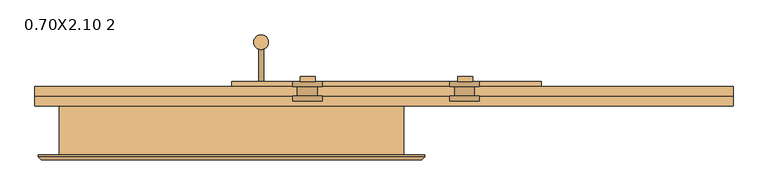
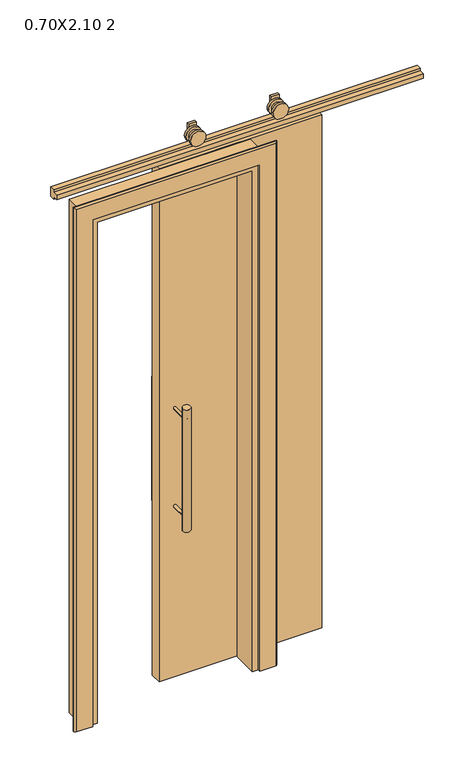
"""IFC4 building model written with IfcOpenShell, lengths in millimetres: door geometry, Porta de correr com revestimento - 1 Painel com trilho de aço inoxidável : 0.70X2.10 2."""

from ifc_helpers import new_model, si_unit, point, frame, frame_2d, origin, origin_with_axes, place, context, project, spatial, polyline, circle_curve, trimmed, segment, composite_curve, outline, extrude, faceted_brep, source, transform, mapped, element, save


def door_0_70x2_10_2_033ef500(model_context):
    return source(origin(), model_context, "Body", "SolidModel", [
        extrude(outline(composite_curve([segment(trimmed(circle_curve(frame_2d((60.0, -25.0)), 15.0), [point((45.0, -25.0))], [point((75.0, -25.0))], False, "CARTESIAN"), True, "CONTINUOUS"), segment(trimmed(circle_curve(frame_2d((60.0, -25.0)), 15.0), [point((75.0, -25.0))], [point((45.0, -25.0))], False, "CARTESIAN"), True, "CONTINUOUS")], self_intersect=False)), frame((0.0, 0.0, 650.0), z_axis=(0.0, 0.0, 1.0), x_axis=(1.0, 0.0, 0.0)), (0.0, 0.0, 1.0), 500.0),
        extrude(outline(composite_curve([segment(trimmed(circle_curve(frame_2d((1100.0, 60.0)), 5.0), [point((1100.0, 55.0))], [point((1100.0, 65.0))], False, "CARTESIAN"), True, "CONTINUOUS"), segment(trimmed(circle_curve(frame_2d((1100.0, 60.0)), 5.0), [point((1100.0, 65.0))], [point((1100.0, 55.0))], False, "CARTESIAN"), True, "CONTINUOUS")], self_intersect=False)), frame((0.0, -25.0, 0.0), z_axis=(0.0, 1.0, 0.0), x_axis=(0.0, 0.0, 1.0)), (0.0, 0.0, 1.0), 80.0),
        extrude(outline(composite_curve([segment(trimmed(circle_curve(frame_2d((700.0, 60.0)), 5.0), [point((700.0, 55.0))], [point((700.0, 65.0))], False, "CARTESIAN"), True, "CONTINUOUS"), segment(trimmed(circle_curve(frame_2d((700.0, 60.0)), 5.0), [point((700.0, 65.0))], [point((700.0, 55.0))], False, "CARTESIAN"), True, "CONTINUOUS")], self_intersect=False)), frame((0.0, -25.0, 0.0), z_axis=(0.0, 1.0, 0.0), x_axis=(0.0, 0.0, 1.0)), (0.0, 0.0, 1.0), 80.0),
        extrude(outline(composite_curve([segment(trimmed(circle_curve(frame_2d((1100.0, 60.0)), 5.0), [point((1100.0, 55.0))], [point((1100.0, 65.0))], False, "CARTESIAN"), True, "CONTINUOUS"), segment(trimmed(circle_curve(frame_2d((1100.0, 60.0)), 5.0), [point((1100.0, 65.0))], [point((1100.0, 55.0))], False, "CARTESIAN"), True, "CONTINUOUS")], self_intersect=False)), frame((0.0, 100.0, 0.0), z_axis=(0.0, 1.0, 0.0), x_axis=(0.0, 0.0, 1.0)), (0.0, 0.0, 1.0), 80.0),
        extrude(outline(composite_curve([segment(trimmed(circle_curve(frame_2d((700.0, 60.0)), 5.0), [point((700.0, 55.0))], [point((700.0, 65.0))], False, "CARTESIAN"), True, "CONTINUOUS"), segment(trimmed(circle_curve(frame_2d((700.0, 60.0)), 5.0), [point((700.0, 65.0))], [point((700.0, 55.0))], False, "CARTESIAN"), True, "CONTINUOUS")], self_intersect=False)), frame((0.0, 100.0, 0.0), z_axis=(0.0, 1.0, 0.0), x_axis=(0.0, 0.0, 1.0)), (0.0, 0.0, 1.0), 80.0),
        extrude(outline(composite_curve([segment(trimmed(circle_curve(frame_2d((60.0, 180.0)), 15.0), [point((45.0, 180.0))], [point((75.0, 180.0))], False, "CARTESIAN"), True, "CONTINUOUS"), segment(trimmed(circle_curve(frame_2d((60.0, 180.0)), 15.0), [point((75.0, 180.0))], [point((45.0, 180.0))], False, "CARTESIAN"), True, "CONTINUOUS")], self_intersect=False)), frame((0.0, 0.0, 650.0), z_axis=(0.0, 0.0, 1.0), x_axis=(1.0, 0.0, 0.0)), (0.0, 0.0, 1.0), 500.0),
        extrude(outline(composite_curve([segment(trimmed(circle_curve(frame_2d((2165.0, 473.9705806)), 30.0), [point((2165.0, 503.9705806))], [point((2165.0, 443.9705806))], False, "CARTESIAN"), True, "CONTINUOUS"), segment(trimmed(circle_curve(frame_2d((2165.0, 473.9705806)), 30.0), [point((2165.0, 443.9705806))], [point((2165.0, 503.9705806))], False, "CARTESIAN"), True, "CONTINUOUS")], self_intersect=False)), frame((0.0, 90.0, 0.0), z_axis=(0.0, 1.0, 0.0), x_axis=(0.0, 0.0, 1.0)), (0.0, 0.0, 1.0), 10.0),
        extrude(outline(polyline([(490.0, 110.0), (490.0, 100.0), (460.0, 100.0), (460.0, 110.0), (490.0, 110.0)])), frame((0.0, 0.0, 1960.0), z_axis=(0.0, 0.0, 1.0), x_axis=(1.0, 0.0, 0.0)), (0.0, 0.0, 1.0), 245.0),
        extrude(outline(composite_curve([segment(trimmed(circle_curve(frame_2d((2165.0, 473.9705806)), 20.0), [point((2165.0, 493.9705806))], [point((2165.0, 453.9705806))], False, "CARTESIAN"), True, "CONTINUOUS"), segment(trimmed(circle_curve(frame_2d((2165.0, 473.9705806)), 20.0), [point((2165.0, 453.9705806))], [point((2165.0, 493.9705806))], False, "CARTESIAN"), True, "CONTINUOUS")], self_intersect=False)), frame((0.0, 70.0, 0.0), z_axis=(0.0, 1.0, 0.0), x_axis=(0.0, 0.0, 1.0)), (0.0, 0.0, 1.0), 20.0),
        extrude(outline(composite_curve([segment(trimmed(circle_curve(frame_2d((2165.0, 473.9705806)), 30.0), [point((2165.0, 503.9705806))], [point((2165.0, 443.9705806))], False, "CARTESIAN"), True, "CONTINUOUS"), segment(trimmed(circle_curve(frame_2d((2165.0, 473.9705806)), 30.0), [point((2165.0, 443.9705806))], [point((2165.0, 503.9705806))], False, "CARTESIAN"), True, "CONTINUOUS")], self_intersect=False)), frame((0.0, 60.0, 0.0), z_axis=(0.0, 1.0, 0.0), x_axis=(0.0, 0.0, 1.0)), (0.0, 0.0, 1.0), 10.0),
        extrude(outline(composite_curve([segment(trimmed(circle_curve(frame_2d((2165.0, 153.9705806)), 30.0), [point((2165.0, 183.9705806))], [point((2165.0, 123.9705806))], False, "CARTESIAN"), True, "CONTINUOUS"), segment(trimmed(circle_curve(frame_2d((2165.0, 153.9705806)), 30.0), [point((2165.0, 123.9705806))], [point((2165.0, 183.9705806))], False, "CARTESIAN"), True, "CONTINUOUS")], self_intersect=False)), frame((0.0, 90.0, 0.0), z_axis=(0.0, 1.0, 0.0), x_axis=(0.0, 0.0, 1.0)), (0.0, 0.0, 1.0), 10.0),
        extrude(outline(polyline([(170.0, 110.0), (170.0, 100.0), (140.0, 100.0), (140.0, 110.0), (170.0, 110.0)])), frame((0.0, 0.0, 1960.0), z_axis=(0.0, 0.0, 1.0), x_axis=(1.0, 0.0, 0.0)), (0.0, 0.0, 1.0), 245.0),
        extrude(outline(composite_curve([segment(trimmed(circle_curve(frame_2d((2165.0, 153.9705806)), 20.0), [point((2165.0, 173.9705806))], [point((2165.0, 133.9705806))], False, "CARTESIAN"), True, "CONTINUOUS"), segment(trimmed(circle_curve(frame_2d((2165.0, 153.9705806)), 20.0), [point((2165.0, 133.9705806))], [point((2165.0, 173.9705806))], False, "CARTESIAN"), True, "CONTINUOUS")], self_intersect=False)), frame((0.0, 70.0, 0.0), z_axis=(0.0, 1.0, 0.0), x_axis=(0.0, 0.0, 1.0)), (0.0, 0.0, 1.0), 20.0),
        extrude(outline(composite_curve([segment(trimmed(circle_curve(frame_2d((2165.0, 153.9705806)), 30.0), [point((2165.0, 183.9705806))], [point((2165.0, 123.9705806))], False, "CARTESIAN"), True, "CONTINUOUS"), segment(trimmed(circle_curve(frame_2d((2165.0, 153.9705806)), 30.0), [point((2165.0, 123.9705806))], [point((2165.0, 183.9705806))], False, "CARTESIAN"), True, "CONTINUOUS")], self_intersect=False)), frame((0.0, 60.0, 0.0), z_axis=(0.0, 1.0, 0.0), x_axis=(0.0, 0.0, 1.0)), (0.0, 0.0, 1.0), 10.0),
        faceted_brep([(-393.0, -54.0, 0.0), (-393.0, -50.0, 0.0), (-323.0, -50.0, 0.0), (-323.0, -60.0, 0.0), (-387.0, -60.0, 0.0), (-387.0, -60.0, 2137.0), (-393.0, -54.0, 2143.0), (-323.0, -60.0, 2073.0), (323.0, -60.0, 2073.0), (323.0, -60.0, 0.0), (387.0, -60.0, 0.0), (387.0, -60.0, 2137.0), (-323.0, -50.0, 2073.0), (-393.0, -50.0, 2143.0), (393.0, -50.0, 2143.0), (393.0, -50.0, 0.0), (323.0, -50.0, 0.0), (323.0, -50.0, 2073.0), (393.0, -54.0, 0.0), (393.0, -54.0, 2143.0)], [[[0, 1, 2, 3, 4]], [[4, 5, 6, 0]], [[3, 7, 8, 9, 10, 11, 5, 4]], [[2, 12, 7, 3]], [[1, 13, 14, 15, 16, 17, 12, 2]], [[0, 6, 13, 1]], [[11, 10, 18, 19]], [[18, 10, 9, 16, 15]], [[17, 16, 9, 8]], [[19, 18, 15, 14]], [[5, 11, 19, 6]], [[12, 17, 8, 7]], [[6, 19, 14, 13]]]),
        extrude(outline(polyline([(630.0, 55.0), (0.0, 55.0), (0.0, 100.0), (630.0, 100.0), (630.0, 55.0)])), origin_with_axes(), (0.0, 0.0, 1.0), 2100.0),
        extrude(outline(polyline([(0.0, -300.0), (2050.0, -300.0), (2050.0, 300.0), (0.0, 300.0), (0.0, 350.0), (2100.0, 350.0), (2100.0, -350.0), (0.0, -350.0), (0.0, -300.0)])), frame((0.0, -50.0, 0.0), z_axis=(0.0, 1.0, 0.0), x_axis=(0.0, 0.0, 1.0)), (0.0, 0.0, 1.0), 100.0),
        extrude(outline(polyline([(70.0, 2105.0), (70.0, 2115.0), (50.0, 2115.0), (50.0, 2135.0), (70.0, 2135.0), (70.0, 2145.0), (90.0, 2145.0), (90.0, 2105.0), (70.0, 2105.0)])), frame((-400.0, 0.0, 0.0), z_axis=(1.0, 0.0, 0.0), x_axis=(0.0, 1.0, 0.0)), (0.0, 0.0, 1.0), 1420.0),
    ])


if __name__ == "__main__":
    model = new_model("IFC4")
    model_context = context("Model", 3, world=origin())
    ifc_project = project(units=[si_unit("LENGTHUNIT", "METRE", prefix="MILLI")], contexts=[model_context])
    site = spatial("IfcSite", under=ifc_project)
    building = spatial("IfcBuilding", under=site)
    placement = place(None, origin())
    door_0_70x2_10_2_shape = door_0_70x2_10_2_033ef500(model_context)
    element("IfcDoor", 1, ObjectType="Porta de correr com revestimento - 1 Painel com trilho de aço inoxidável : 0.70X2.10 2", at=placement, inside=building, context=model_context, shape_type="MappedRepresentation", body=[
        mapped(door_0_70x2_10_2_shape, transform((0.0, 0.0, 0.0), x_axis=(1.0, 0.0, 0.0), y_axis=(0.0, 1.0, 0.0), z_axis=(0.0, 0.0, 1.0))),
    ])
    save(model, "model.ifc")
